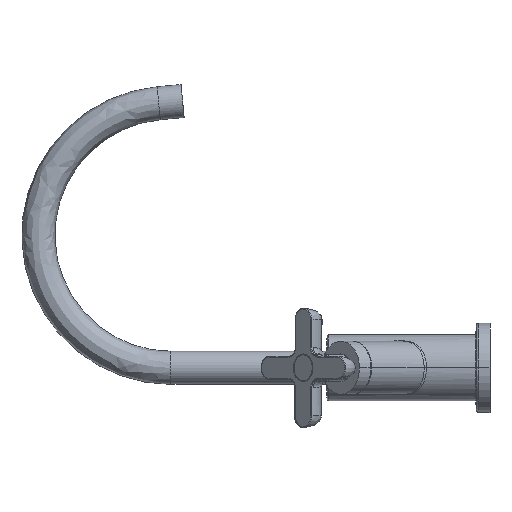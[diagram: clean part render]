
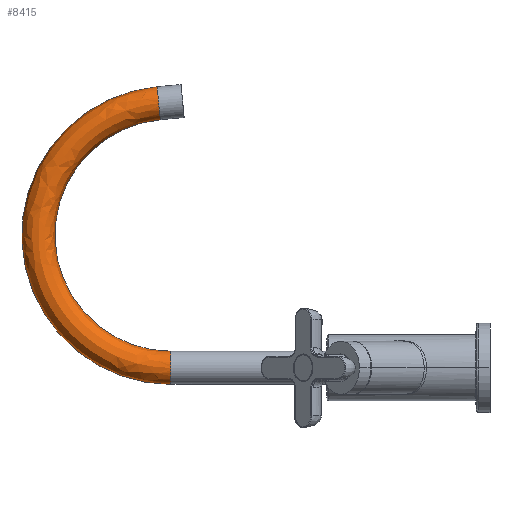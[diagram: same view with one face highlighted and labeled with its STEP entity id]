
A CAD part, left-side view. The second image highlights one B-rep face of the part: STEP entity #8415.
In plain terms, the highlighted free-form (B-spline) face has degree [2, 2] with [5, 5] control points.
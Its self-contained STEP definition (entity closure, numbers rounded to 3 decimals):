
#8263=CARTESIAN_POINT('',(0.,192.357,169.611));
#8264=VERTEX_POINT('',#8263);
#8271=CARTESIAN_POINT('',(0.,190.5,149.698));
#8272=VERTEX_POINT('',#8271);
#8273=CARTESIAN_POINT('',(0.,191.429,159.654));
#8274=DIRECTION('',(0.0,0.996,-0.093));
#8275=DIRECTION('',(0.0,-0.093,-0.996));
#8276=AXIS2_PLACEMENT_3D('',#8273,#8274,#8275);
#8277=CIRCLE('',#8276,10.0);
#8278=EDGE_CURVE('',#8272,#8264,#8277,.T.);
#8341=CARTESIAN_POINT('',(0.,184.0,10.));
#8342=VERTEX_POINT('',#8341);
#8343=CARTESIAN_POINT('',(0.,184.,80.));
#8344=DIRECTION('',(-1.0,0.0,0.0));
#8345=DIRECTION('',(0.0,0.093,0.996));
#8346=AXIS2_PLACEMENT_3D('',#8343,#8344,#8345);
#8347=CIRCLE('',#8346,70.0);
#8348=EDGE_CURVE('',#8272,#8342,#8347,.T.);
#8350=CARTESIAN_POINT('',(0.,184.0,-10.));
#8351=VERTEX_POINT('',#8350);
#8359=CARTESIAN_POINT('',(0.,184.,80.));
#8360=DIRECTION('',(-1.0,0.0,0.0));
#8361=DIRECTION('',(0.0,0.093,0.996));
#8362=AXIS2_PLACEMENT_3D('',#8359,#8360,#8361);
#8363=CIRCLE('',#8362,90.0);
#8364=EDGE_CURVE('',#8264,#8351,#8363,.T.);
#8370=CARTESIAN_POINT('',(0.,184.,-10.));
#8371=CARTESIAN_POINT('',(-10.,184.,-10.));
#8372=CARTESIAN_POINT('',(-10.,184.,0.));
#8373=CARTESIAN_POINT('',(-10.,184.,10.));
#8374=CARTESIAN_POINT('',(0.,184.,10.));
#8375=CARTESIAN_POINT('',(0.,265.997,-10.));
#8376=CARTESIAN_POINT('',(-10.,265.997,-10.));
#8377=CARTESIAN_POINT('',(-10.,256.886,0.));
#8378=CARTESIAN_POINT('',(-10.,247.775,10.));
#8379=CARTESIAN_POINT('',(0.,247.775,10.));
#8380=CARTESIAN_POINT('',(0.,273.611,71.643));
#8381=CARTESIAN_POINT('',(-10.,273.611,71.643));
#8382=CARTESIAN_POINT('',(-10.,263.654,72.571));
#8383=CARTESIAN_POINT('',(-10.,253.698,73.5));
#8384=CARTESIAN_POINT('',(0.,253.698,73.5));
#8385=CARTESIAN_POINT('',(0.,281.968,161.254));
#8386=CARTESIAN_POINT('',(-10.,281.968,161.254));
#8387=CARTESIAN_POINT('',(-10.,271.083,152.226));
#8388=CARTESIAN_POINT('',(-10.,260.198,143.197));
#8389=CARTESIAN_POINT('',(0.,260.198,143.197));
#8390=CARTESIAN_POINT('',(0.,192.357,169.611));
#8391=CARTESIAN_POINT('',(-10.,192.357,169.611));
#8392=CARTESIAN_POINT('',(-10.,191.429,159.654));
#8393=CARTESIAN_POINT('',(-10.,190.5,149.698));
#8394=CARTESIAN_POINT('',(0.,190.5,149.698));
#8402=(BOUNDED_SURFACE()B_SPLINE_SURFACE(2,2,((#8370,#8375,#8380,#8385,#8390),(#8371,#8376,#8381,#8386,#8391),(#8372,#8377,#8382,#8387,#8392),(#8373,#8378,#8383,#8388,#8393),(#8374,#8379,#8384,#8389,#8394)),.UNSPECIFIED.,.F.,.F.,.U.)B_SPLINE_SURFACE_WITH_KNOTS((3,2,3),(3,2,3),(0.,0.25,0.5),(0.016,0.25,0.5),.UNSPECIFIED.)GEOMETRIC_REPRESENTATION_ITEM()RATIONAL_B_SPLINE_SURFACE(((0.965,0.726,1.,0.707,1.),(0.682,0.513,0.707,0.5,0.707),(0.965,0.726,1.0,0.707,1.),(0.682,0.513,0.707,0.5,0.707),(0.965,0.726,1.,0.707,1.)))REPRESENTATION_ITEM('')SURFACE());
#8403=ORIENTED_EDGE('',*,*,#8364,.T.);
#8404=CARTESIAN_POINT('',(0.,184.0,0.));
#8405=DIRECTION('',(0.0,-1.0,0.0));
#8406=DIRECTION('',(0.0,0.0,1.0));
#8407=AXIS2_PLACEMENT_3D('',#8404,#8405,#8406);
#8408=CIRCLE('',#8407,10.0);
#8409=EDGE_CURVE('',#8342,#8351,#8408,.T.);
#8410=ORIENTED_EDGE('',*,*,#8409,.F.);
#8411=ORIENTED_EDGE('',*,*,#8348,.F.);
#8412=ORIENTED_EDGE('',*,*,#8278,.T.);
#8413=EDGE_LOOP('',(#8403,#8410,#8411,#8412));
#8414=FACE_OUTER_BOUND('',#8413,.T.);
#8415=ADVANCED_FACE('',(#8414),#8402,.T.);
